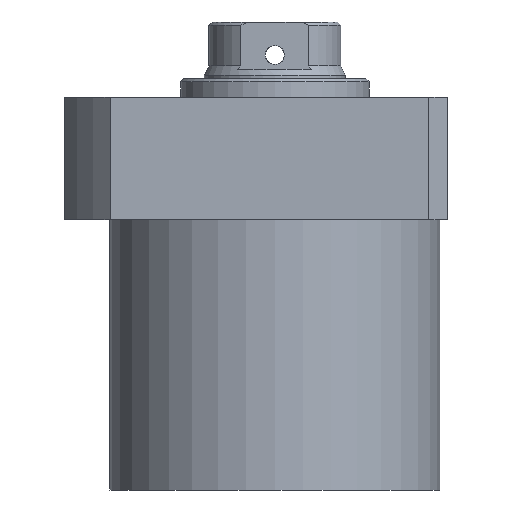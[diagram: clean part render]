
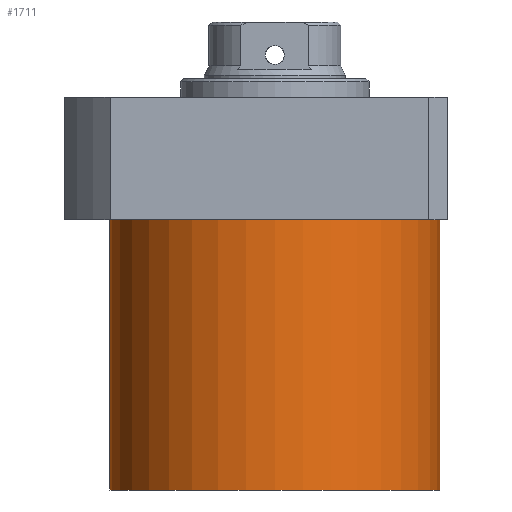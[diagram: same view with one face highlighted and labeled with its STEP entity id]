
A CAD part, front view. The second image highlights one B-rep face of the part: STEP entity #1711.
In plain terms, the highlighted cylindrical face has radius 52.5 mm (diameter 105 mm), a partial arc.
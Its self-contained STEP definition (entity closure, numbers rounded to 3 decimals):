
#6 = CARTESIAN_POINT ( 'NONE',  ( 0., 0., -105.5 ) ) ;
#44 = EDGE_CURVE ( 'NONE', #513, #276, #326, .T. ) ;
#231 = CARTESIAN_POINT ( 'NONE',  ( 52.5, 0., -105.5 ) ) ;
#276 = VERTEX_POINT ( 'NONE', #316 ) ;
#316 = CARTESIAN_POINT ( 'NONE',  ( 52.5, 0., -19.5 ) ) ;
#326 = LINE ( 'NONE', #231, #2060 ) ;
#340 = VERTEX_POINT ( 'NONE', #1842 ) ;
#375 = CARTESIAN_POINT ( 'NONE',  ( -52.5, 0., -105.5 ) ) ;
#419 = DIRECTION ( 'NONE',  ( 0., 0., 1. ) ) ;
#500 = VECTOR ( 'NONE', #1210, 1000. ) ;
#513 = VERTEX_POINT ( 'NONE', #1917 ) ;
#706 = EDGE_LOOP ( 'NONE', ( #1899, #1974, #895, #1787 ) ) ;
#770 = EDGE_CURVE ( 'NONE', #513, #1954, #1988, .T. ) ;
#884 = LINE ( 'NONE', #375, #500 ) ;
#895 = ORIENTED_EDGE ( 'NONE', *, *, #44, .T. ) ;
#950 = AXIS2_PLACEMENT_3D ( 'NONE', #1927, #1400, #1081 ) ;
#1081 = DIRECTION ( 'NONE',  ( 1., 0., 0. ) ) ;
#1091 = CARTESIAN_POINT ( 'NONE',  ( -52.5, 0., -105.5 ) ) ;
#1140 = CARTESIAN_POINT ( 'NONE',  ( 0., 0., -105.5 ) ) ;
#1210 = DIRECTION ( 'NONE',  ( 0., 0., 1. ) ) ;
#1301 = DIRECTION ( 'NONE',  ( 0., 0., -1. ) ) ;
#1317 = EDGE_CURVE ( 'NONE', #1954, #340, #884, .T. ) ;
#1400 = DIRECTION ( 'NONE',  ( 0., 0., -1. ) ) ;
#1487 = CIRCLE ( 'NONE', #950, 52.5 ) ;
#1508 = EDGE_CURVE ( 'NONE', #276, #340, #1487, .T. ) ;
#1659 = CYLINDRICAL_SURFACE ( 'NONE', #2132, 52.5 ) ;
#1711 = ADVANCED_FACE ( 'NONE', ( #1971 ), #1659, .T. ) ;
#1787 = ORIENTED_EDGE ( 'NONE', *, *, #1508, .T. ) ;
#1842 = CARTESIAN_POINT ( 'NONE',  ( -52.5, 0., -19.5 ) ) ;
#1850 = DIRECTION ( 'NONE',  ( 1., 0., 0. ) ) ;
#1859 = AXIS2_PLACEMENT_3D ( 'NONE', #1140, #1301, #2127 ) ;
#1899 = ORIENTED_EDGE ( 'NONE', *, *, #1317, .F. ) ;
#1917 = CARTESIAN_POINT ( 'NONE',  ( 52.5, 0., -105.5 ) ) ;
#1927 = CARTESIAN_POINT ( 'NONE',  ( 0., 0., -19.5 ) ) ;
#1954 = VERTEX_POINT ( 'NONE', #1091 ) ;
#1971 = FACE_OUTER_BOUND ( 'NONE', #706, .T. ) ;
#1974 = ORIENTED_EDGE ( 'NONE', *, *, #770, .F. ) ;
#1988 = CIRCLE ( 'NONE', #1859, 52.5 ) ;
#2060 = VECTOR ( 'NONE', #419, 1000. ) ;
#2127 = DIRECTION ( 'NONE',  ( -1., 0., 0. ) ) ;
#2132 = AXIS2_PLACEMENT_3D ( 'NONE', #6, #2145, #1850 ) ;
#2145 = DIRECTION ( 'NONE',  ( 0., 0., 1. ) ) ;
